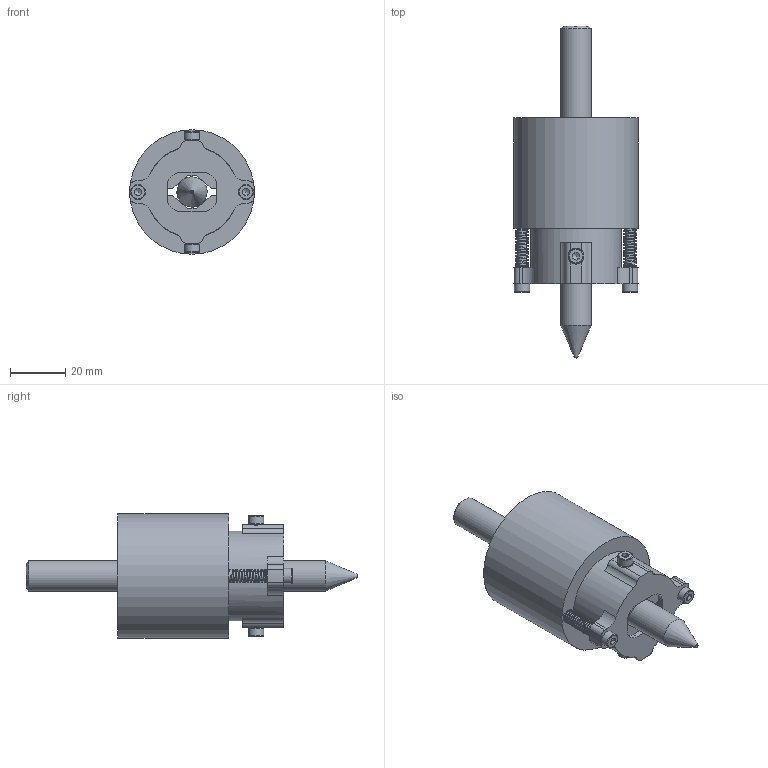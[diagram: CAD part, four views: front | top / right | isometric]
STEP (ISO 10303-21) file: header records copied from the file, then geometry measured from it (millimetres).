
FILE_DESCRIPTION(/* description */ (''),/* implementation_level */ '2;1');
FILE_NAME(/* name */ 'Assieme_porta_pennarelli.stp',/* time_stamp */ '2024-11-28T21:59:39+01:00',/* author */ ('R5800u'),/* organization */ (''),/* preprocessor_version */ 'ST-DEVELOPER v20',/* originating_system */ 'Autodesk Inventor 2025',/* authorisation */ '');
FILE_SCHEMA (('AUTOMOTIVE_DESIGN { 1 0 10303 214 3 1 1 }'));
Length unit declared in the file: millimetre
Products named in the file (9): Assieme_pp1; pp1; pp3; BS 4168 - M3 x 30; Molla di compressione1; pp5; boccola_filettata; AS 1420 - 1973 - M3 x 10; pennarello
Assembly tree (13 placements, depth 2):
  Assieme_pp1
    pp1
    pp3
    BS 4168 - M3 x 30  x2
    Molla di compressione1  x2
    pp5  x2
    boccola_filettata  x2
    AS 1420 - 1973 - M3 x 10  x2
    pennarello
Bounding box: 45 x 120 x 45 mm (x, y, z)
Volume: 75566 mm3; surface area: 33995.6 mm2
Topology: 13 solids, 13 shells, 807 faces, 2331 edges, 1552 vertices
Faces by surface type: plane 494, cylinder 248, bspline 35, cone 22, torus 8
Full cylindrical faces by diameter (mm): 2.642 x2, 3 x6, 3.2 x2, 3.5 x2, 5 x2, 5.5 x4, 11 x1, 32.7 x1, 33 x1, 45 x1
Entity records: 18125 total; most frequent: CARTESIAN_POINT 5922, ORIENTED_EDGE 2538, DIRECTION 2429, EDGE_CURVE 1269, LINE 865, VECTOR 865, VERTEX_POINT 847, AXIS2_PLACEMENT_3D 782
